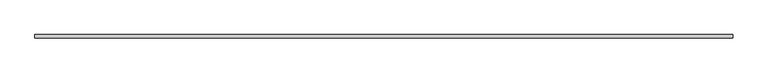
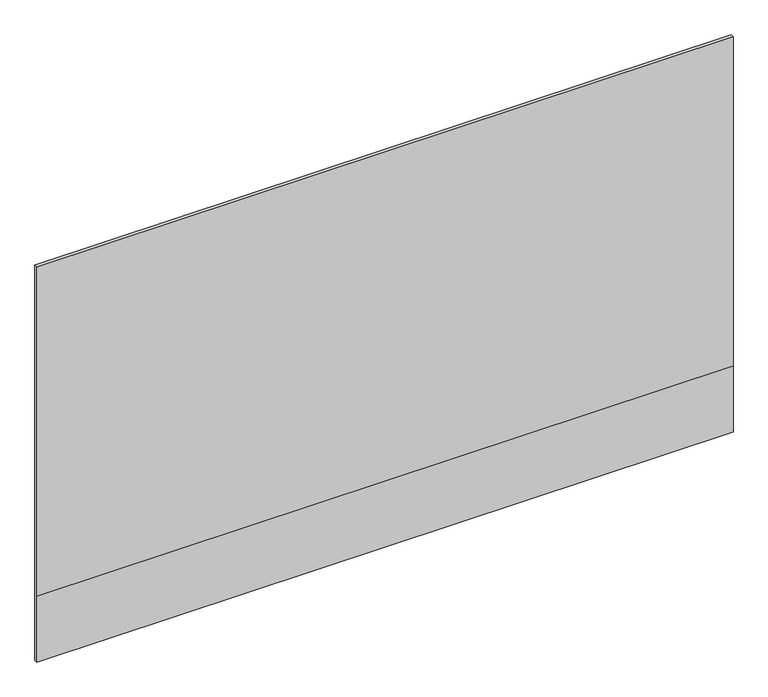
"""IFC4 building model written with IfcOpenShell, lengths in millimetres: railing geometry, Spezielle Abschlüsse."""

import ifcopenshell
import ifcopenshell.guid

model = None  # the IFC model being written
_history = None  # IfcOwnerHistory: only IFC2X3 demands one
_inside = {}  # id of a spatial element -> (the spatial element, [elements in it])
_under = {}  # id of a project, library or spatial element -> (it, [spatial elements below it])
_declared = {}  # id of a project -> (the project, [libraries it declares])
_typed = {}  # id of a type object -> (the type object, [elements of that type])
_made_of = {}  # id of a material, layer set ... -> (it, [elements and type objects made of it])


def new_model(schema):
    """Start an empty IFC model of exactly this schema.

    Asked for "IFC4X3", IfcOpenShell would pick the latest addendum, in which some entities
    have other attributes; the version numbers below select the first issue.
    IFC2X3 requires an IfcOwnerHistory on every rooted entity: one is made here for all.
    """
    global model, _history
    if schema == "IFC4X3":
        model = ifcopenshell.file(schema_version=(4, 3, 0, 0))
    else:
        model = ifcopenshell.file(schema=schema)
    _inside.clear()
    _under.clear()
    _declared.clear()
    _typed.clear()
    _made_of.clear()
    _history = None
    if model.schema == "IFC2X3":
        org = make("IfcOrganization", Name="unknown")
        user = make(
            "IfcPersonAndOrganization",
            ThePerson=make("IfcPerson", FamilyName="unknown"),
            TheOrganization=org,
        )
        app = make(
            "IfcApplication",
            ApplicationDeveloper=org,
            Version="unknown",
            ApplicationFullName="unknown",
            ApplicationIdentifier="unknown",
        )
        _history = make(
            "IfcOwnerHistory",
            OwningUser=user,
            OwningApplication=app,
            ChangeAction="ADDED",
            CreationDate=0,
        )
    return model


def make(cls, **values):
    """One entity of the class cls with the attributes given. An attribute that is None is left unset."""
    return model.create_entity(
        cls, **{name: value for name, value in values.items() if value is not None}
    )


def rooted(cls, **values):
    """An entity with a GlobalId (a new one), such as an element, a storey or a relation."""
    return make(cls, GlobalId=ifcopenshell.guid.new(), OwnerHistory=_history, **values)


def si_unit(unit_type, name, prefix=None):
    """IfcSIUnit, for example si_unit("LENGTHUNIT", "METRE", prefix="MILLI")."""
    return make("IfcSIUnit", UnitType=unit_type, Prefix=prefix, Name=name)


def assignment(units):
    """IfcUnitAssignment: the units of a project."""
    return None if units is None else make("IfcUnitAssignment", Units=units)


def point(xyz):
    """IfcCartesianPoint."""
    return None if xyz is None else make("IfcCartesianPoint", Coordinates=xyz)


def direction(xyz):
    """IfcDirection."""
    return None if xyz is None else make("IfcDirection", DirectionRatios=xyz)


def frame(location, z_axis=None, x_axis=None):
    """IfcAxis2Placement3D, a coordinate frame: its origin and axes. An axis left out is left unset."""
    return make(
        "IfcAxis2Placement3D",
        Location=point(location),
        Axis=direction(z_axis),
        RefDirection=direction(x_axis),
    )


def origin():
    """The frame at (0, 0, 0) with its axes left unset."""
    return frame((0.0, 0.0, 0.0))


def place(relative_to, where):
    """IfcLocalPlacement: puts the frame where relative to a parent placement (None: the world)."""
    return make(
        "IfcLocalPlacement", PlacementRelTo=relative_to, RelativePlacement=where
    )


def context(
    kind, dimensions, precision=None, world=None, true_north=None, identifier=None
):
    """IfcGeometricRepresentationContext, for example the 3D "Model" context."""
    return make(
        "IfcGeometricRepresentationContext",
        ContextIdentifier=identifier,
        ContextType=kind,
        CoordinateSpaceDimension=dimensions,
        Precision=precision,
        WorldCoordinateSystem=world,
        TrueNorth=true_north,
    )


def project(units=None, contexts=None):
    """IfcProject with its units and contexts."""
    return rooted(
        "IfcProject",
        Name="project",
        RepresentationContexts=contexts,
        UnitsInContext=assignment(units),
    )


def spatial(cls, under=None, at=None, **own):
    """A site, building, storey or space (cls), placed at a placement, below another one or the project."""
    s = rooted(cls, ObjectPlacement=at, **own)
    if under is not None:
        _under.setdefault(under.id(), (under, []))[1].append(s)
    return s


def polyline(points):
    """IfcPolyline through the points."""
    return make("IfcPolyline", Points=[point(p) for p in points])


def outline(outer, holes=None, kind="AREA"):
    """IfcArbitraryClosedProfileDef: a profile drawn as a closed curve; with holes, ...WithVoids."""
    if holes is None:
        return make("IfcArbitraryClosedProfileDef", ProfileType=kind, OuterCurve=outer)
    return make(
        "IfcArbitraryProfileDefWithVoids",
        ProfileType=kind,
        OuterCurve=outer,
        InnerCurves=holes,
    )


def extrude(swept, where, along, depth):
    """IfcExtrudedAreaSolid: the profile swept, set in the frame where, extruded along a direction by depth."""
    return make(
        "IfcExtrudedAreaSolid",
        SweptArea=swept,
        Position=where,
        ExtrudedDirection=direction(along),
        Depth=depth,
    )


def shape(context_of_items, identifier, shape_type, items):
    """IfcShapeRepresentation: the items that make up one representation, for example the "Body"."""
    return make(
        "IfcShapeRepresentation",
        ContextOfItems=context_of_items,
        RepresentationIdentifier=identifier,
        RepresentationType=shape_type,
        Items=items,
    )


def source(mapping_origin, context_of_items, identifier, shape_type, items):
    """IfcRepresentationMap: a shape defined once, which mapped items show again and again."""
    return make(
        "IfcRepresentationMap",
        MappingOrigin=mapping_origin,
        MappedRepresentation=shape(context_of_items, identifier, shape_type, items),
    )


def transform(
    local_origin,
    x_axis=None,
    y_axis=None,
    z_axis=None,
    scale=None,
    scale2=None,
    scale3=None,
    uniform=True,
):
    """IfcCartesianTransformationOperator3D, or its non-uniform kind. x_axis, y_axis, z_axis: its Axis1, 2, 3."""
    if uniform:
        return make(
            "IfcCartesianTransformationOperator3D",
            Axis1=direction(x_axis),
            Axis2=direction(y_axis),
            LocalOrigin=point(local_origin),
            Scale=scale,
            Axis3=direction(z_axis),
        )
    return make(
        "IfcCartesianTransformationOperator3DnonUniform",
        Axis1=direction(x_axis),
        Axis2=direction(y_axis),
        LocalOrigin=point(local_origin),
        Scale=scale,
        Axis3=direction(z_axis),
        Scale2=scale2,
        Scale3=scale3,
    )


def mapped(mapping_source, mapping_target):
    """IfcMappedItem: shows the shape of a source again, moved by a transform."""
    return make(
        "IfcMappedItem", MappingSource=mapping_source, MappingTarget=mapping_target
    )


def made_of(thing, what):
    """Note that an element or type object is made of a material, layer set ...; save() writes the relation."""
    if what is not None:
        _made_of.setdefault(what.id(), (what, []))[1].append(thing)
    return thing


def element(
    cls,
    number,
    at=None,
    inside=None,
    cuts=None,
    type_object=None,
    material=None,
    context=None,
    identifier="Body",
    shape_type=None,
    held_by="IfcProductDefinitionShape",
    body=None,
    shapes=None,
    **own,
):
    """One element of the class cls, such as IfcWall. Its Tag is "e" and its number.

    at: its placement. inside: the storey or other place that contains it. cuts: it is an
    opening in that element (IfcRelVoidsElement). A single representation is given by context,
    identifier, shape_type and body (its items); several are given by shapes. held_by: the class
    of the entity that holds the representations. save() writes the other relations.
    """
    e = rooted(cls, Tag="e%d" % number, ObjectPlacement=at, **own)
    if body is not None:
        shapes = [shape(context, identifier, shape_type, body)]
    if shapes is not None:
        e.Representation = make(held_by, Representations=shapes)
    if inside is not None:
        _inside.setdefault(inside.id(), (inside, []))[1].append(e)
    if cuts is not None:
        rooted(
            "IfcRelVoidsElement", RelatingBuildingElement=cuts, RelatedOpeningElement=e
        )
    if type_object is not None:
        _typed.setdefault(type_object.id(), (type_object, []))[1].append(e)
    return made_of(e, material)


def aggregate(whole, parts):
    """IfcRelAggregates: a whole, such as a stair, and the parts it consists of."""
    return rooted("IfcRelAggregates", RelatingObject=whole, RelatedObjects=parts)


def save(model, path):
    """Write the relations noted so far, then the file.

    IfcRelAggregates (storeys below a building ...), IfcRelContainedInSpatialStructure (elements
    in a storey), IfcRelDefinesByType, IfcRelAssociatesMaterial and IfcRelDeclares: one each for
    every whole, place, type object, material and project.
    """
    for whole, parts in _under.values():
        aggregate(whole, parts)
    for where, things in _inside.values():
        rooted(
            "IfcRelContainedInSpatialStructure",
            RelatedElements=things,
            RelatingStructure=where,
        )
    for kind, things in _typed.values():
        rooted("IfcRelDefinesByType", RelatedObjects=things, RelatingType=kind)
    for what, things in _made_of.values():
        rooted("IfcRelAssociatesMaterial", RelatedObjects=things, RelatingMaterial=what)
    for by, libraries in _declared.values():
        rooted("IfcRelDeclares", RelatingContext=by, RelatedDefinitions=libraries)
    model.write(path)


def railing_af8d3a7c(model_context):
    return source(origin(), model_context, "Body", "SweptSolid", [
        extrude(outline(polyline([(-77957.2537355, -200.0), (-77957.2537355, 0.0), (-77957.2537355, 1000.0), (-77947.2537355, 1000.0), (-77947.2537355, -200.0), (-77957.2537355, -200.0)])), frame((51030.5102555, 0.0, 0.0), z_axis=(1.0, 0.0, 0.0), x_axis=(0.0, 1.0, 0.0)), (0.0, 0.0, 1.0), 2000.0),
    ])


if __name__ == "__main__":
    model = new_model("IFC4")
    model_context = context("Model", 3, world=origin())
    ifc_project = project(units=[si_unit("LENGTHUNIT", "METRE", prefix="MILLI")], contexts=[model_context])
    site = spatial("IfcSite", under=ifc_project)
    building = spatial("IfcBuilding", under=site)
    placement = place(None, origin())
    railing_shape = railing_af8d3a7c(model_context)
    element("IfcRailing", 1, ObjectType="Spezielle Abschlüsse", at=placement, inside=building, context=model_context, shape_type="MappedRepresentation", body=[
        mapped(railing_shape, transform((0.0, 0.0, 0.0), x_axis=(1.0, 0.0, 0.0), y_axis=(0.0, 1.0, 0.0), z_axis=(0.0, 0.0, 1.0))),
    ])
    save(model, "model.ifc")
